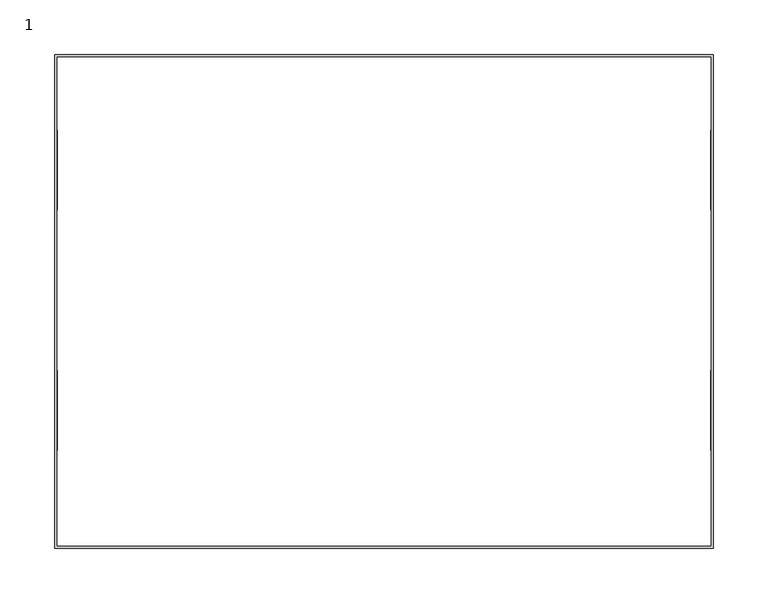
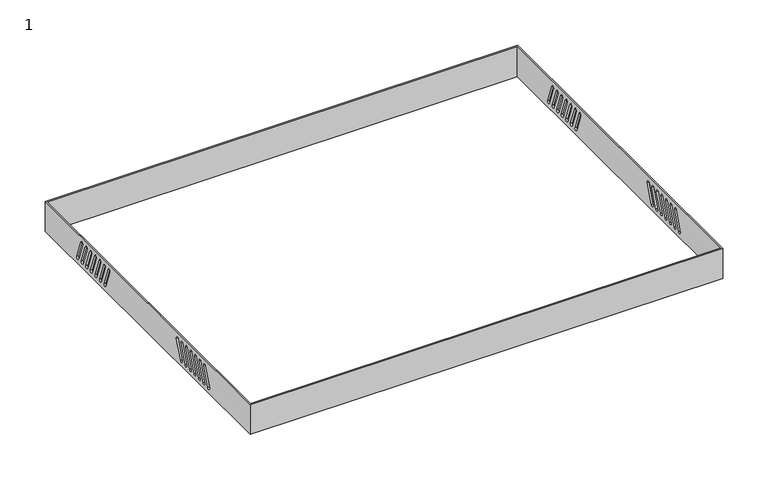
"""IFC4 building model written with IfcOpenShell, lengths in millimetres: proxy geometry, 1."""

from ifc_helpers import new_model, si_unit, frame, origin, place, context, project, spatial, polyline, circle_curve, source, transform, mapped, element, save
from ifc_brep_helpers import plane_surface, revolved_surface, advanced_brep


def proxy_1_935bc356(model_context):
    return source(origin(), model_context, "Body", "AdvancedBrep", [
        advanced_brep(
        [(298.0, -223.0, 0.0), (298.0, -223.0, 40.0), (298.0, 223.0, 40.0), (298.0, 223.0, 0.0), (298.0, -135.8, 8.2520321), (298.0, -132.0412295, 6.8839516), (298.0, -123.1487058, 31.3159597), (298.0, -126.9074763, 32.6840403), (298.0, -125.8, 8.2520321), (298.0, -122.0412295, 6.8839516), (298.0, -113.1487058, 31.3159597), (298.0, -116.9074763, 32.6840403), (298.0, -115.8, 8.2520321), (298.0, -112.0412295, 6.8839516), (298.0, -103.1487058, 31.3159597), (298.0, -106.9074763, 32.6840403), (298.0, -105.8, 8.2520321), (298.0, -102.0412295, 6.8839516), (298.0, -93.1487058, 31.3159597), (298.0, -96.9074763, 32.6840403), (298.0, -95.8, 8.2520321), (298.0, -92.0412295, 6.8839516), (298.0, -83.1487058, 31.3159597), (298.0, -86.9074763, 32.6840403), (298.0, -85.8, 8.2520321), (298.0, -82.0412295, 6.8839516), (298.0, -73.1487058, 31.3159597), (298.0, -76.9074763, 32.6840403), (298.0, -75.8, 8.2520321), (298.0, -72.0412295, 6.8839516), (298.0, -63.1487058, 31.3159597), (298.0, -66.9074763, 32.6840403), (298.0, 152.2412295, 6.8839516), (298.0, 156.0, 8.2520321), (298.0, 147.1074763, 32.6840403), (298.0, 143.3487058, 31.3159597), (298.0, 142.2412295, 6.8839516), (298.0, 146.0, 8.2520321), (298.0, 137.1074763, 32.6840403), (298.0, 133.3487058, 31.3159597), (298.0, 132.2412295, 6.8839516), (298.0, 136.0, 8.2520321), (298.0, 127.1074763, 32.6840403), (298.0, 123.3487058, 31.3159597), (298.0, 122.2412295, 6.8839516), (298.0, 126.0, 8.2520321), (298.0, 117.1074763, 32.6840403), (298.0, 113.3487058, 31.3159597), (298.0, 112.2412295, 6.8839516), (298.0, 116.0, 8.2520321), (298.0, 107.1074763, 32.6840403), (298.0, 103.3487058, 31.3159597), (298.0, 102.2412295, 6.8839516), (298.0, 106.0, 8.2520321), (298.0, 97.1074763, 32.6840403), (298.0, 93.3487058, 31.3159597), (298.0, 92.2412295, 6.8839516), (298.0, 96.0, 8.2520321), (298.0, 87.1074763, 32.6840403), (298.0, 83.3487058, 31.3159597), (300.0, -225.0, 0.0), (300.0, 225.0, 0.0), (300.0, 225.0, 40.0), (300.0, -225.0, 40.0), (300.0, -132.0412295, 6.8839516), (300.0, -135.8, 8.2520321), (300.0, -126.9074763, 32.6840403), (300.0, -123.1487058, 31.3159597), (300.0, -122.0412295, 6.8839516), (300.0, -125.8, 8.2520321), (300.0, -116.9074763, 32.6840403), (300.0, -113.1487058, 31.3159597), (300.0, -112.0412295, 6.8839516), (300.0, -115.8, 8.2520321), (300.0, -106.9074763, 32.6840403), (300.0, -103.1487058, 31.3159597), (300.0, -102.0412295, 6.8839516), (300.0, -105.8, 8.2520321), (300.0, -96.9074763, 32.6840403), (300.0, -93.1487058, 31.3159597), (300.0, -92.0412295, 6.8839516), (300.0, -95.8, 8.2520321), (300.0, -86.9074763, 32.6840403), (300.0, -83.1487058, 31.3159597), (300.0, -82.0412295, 6.8839516), (300.0, -85.8, 8.2520321), (300.0, -76.9074763, 32.6840403), (300.0, -73.1487058, 31.3159597), (300.0, -72.0412295, 6.8839516), (300.0, -75.8, 8.2520321), (300.0, -66.9074763, 32.6840403), (300.0, -63.1487058, 31.3159597), (300.0, 156.0, 8.2520321), (300.0, 152.2412295, 6.8839516), (300.0, 143.3487058, 31.3159597), (300.0, 147.1074763, 32.6840403), (300.0, 146.0, 8.2520321), (300.0, 142.2412295, 6.8839516), (300.0, 133.3487058, 31.3159597), (300.0, 137.1074763, 32.6840403), (300.0, 136.0, 8.2520321), (300.0, 132.2412295, 6.8839516), (300.0, 123.3487058, 31.3159597), (300.0, 127.1074763, 32.6840403), (300.0, 126.0, 8.2520321), (300.0, 122.2412295, 6.8839516), (300.0, 113.3487058, 31.3159597), (300.0, 117.1074763, 32.6840403), (300.0, 116.0, 8.2520321), (300.0, 112.2412295, 6.8839516), (300.0, 103.3487058, 31.3159597), (300.0, 107.1074763, 32.6840403), (300.0, 106.0, 8.2520321), (300.0, 102.2412295, 6.8839516), (300.0, 93.3487058, 31.3159597), (300.0, 97.1074763, 32.6840403), (300.0, 96.0, 8.2520321), (300.0, 92.2412295, 6.8839516), (300.0, 83.3487058, 31.3159597), (300.0, 87.1074763, 32.6840403), (-300.0, -225.0, 0.0), (-300.0, 225.0, 0.0), (-298.0, 223.0, 0.0), (-298.0, -223.0, 0.0), (-300.0, -225.0, 40.0), (-300.0, 225.0, 40.0), (-298.0, -223.0, 40.0), (-298.0, 223.0, 40.0), (-298.0, 96.0, 8.2520321), (-298.0, 92.2412295, 6.8839516), (-298.0, 83.3487058, 31.3159597), (-298.0, 87.1074763, 32.6840403), (-298.0, 106.0, 8.2520321), (-298.0, 102.2412295, 6.8839516), (-298.0, 93.3487058, 31.3159597), (-298.0, 97.1074763, 32.6840403), (-298.0, 116.0, 8.2520321), (-298.0, 112.2412295, 6.8839516), (-298.0, 103.3487058, 31.3159597), (-298.0, 107.1074763, 32.6840403), (-298.0, 126.0, 8.2520321), (-298.0, 122.2412295, 6.8839516), (-298.0, 113.3487058, 31.3159597), (-298.0, 117.1074763, 32.6840403), (-298.0, 136.0, 8.2520321), (-298.0, 132.2412295, 6.8839516), (-298.0, 123.3487058, 31.3159597), (-298.0, 127.1074763, 32.6840403), (-298.0, 146.0, 8.2520321), (-298.0, 142.2412295, 6.8839516), (-298.0, 133.3487058, 31.3159597), (-298.0, 137.1074763, 32.6840403), (-298.0, 156.0, 8.2520321), (-298.0, 152.2412295, 6.8839516), (-298.0, 143.3487058, 31.3159597), (-298.0, 147.1074763, 32.6840403), (-298.0, -66.9074763, 32.6840403), (-298.0, -63.1487058, 31.3159597), (-298.0, -72.0412295, 6.8839516), (-298.0, -75.8, 8.2520321), (-298.0, -76.9074763, 32.6840403), (-298.0, -73.1487058, 31.3159597), (-298.0, -82.0412295, 6.8839516), (-298.0, -85.8, 8.2520321), (-298.0, -86.9074763, 32.6840403), (-298.0, -83.1487058, 31.3159597), (-298.0, -92.0412295, 6.8839516), (-298.0, -95.8, 8.2520321), (-298.0, -96.9074763, 32.6840403), (-298.0, -93.1487058, 31.3159597), (-298.0, -102.0412295, 6.8839516), (-298.0, -105.8, 8.2520321), (-298.0, -106.9074763, 32.6840403), (-298.0, -103.1487058, 31.3159597), (-298.0, -112.0412295, 6.8839516), (-298.0, -115.8, 8.2520321), (-298.0, -116.9074763, 32.6840403), (-298.0, -113.1487058, 31.3159597), (-298.0, -122.0412295, 6.8839516), (-298.0, -125.8, 8.2520321), (-298.0, -126.9074763, 32.6840403), (-298.0, -123.1487058, 31.3159597), (-298.0, -132.0412295, 6.8839516), (-298.0, -135.8, 8.2520321), (-300.0, 92.2412295, 6.8839516), (-300.0, 96.0, 8.2520321), (-300.0, 87.1074763, 32.6840403), (-300.0, 83.3487058, 31.3159597), (-300.0, 102.2412295, 6.8839516), (-300.0, 106.0, 8.2520321), (-300.0, 97.1074763, 32.6840403), (-300.0, 93.3487058, 31.3159597), (-300.0, 112.2412295, 6.8839516), (-300.0, 116.0, 8.2520321), (-300.0, 107.1074763, 32.6840403), (-300.0, 103.3487058, 31.3159597), (-300.0, 122.2412295, 6.8839516), (-300.0, 126.0, 8.2520321), (-300.0, 117.1074763, 32.6840403), (-300.0, 113.3487058, 31.3159597), (-300.0, 132.2412295, 6.8839516), (-300.0, 136.0, 8.2520321), (-300.0, 127.1074763, 32.6840403), (-300.0, 123.3487058, 31.3159597), (-300.0, 142.2412295, 6.8839516), (-300.0, 146.0, 8.2520321), (-300.0, 137.1074763, 32.6840403), (-300.0, 133.3487058, 31.3159597), (-300.0, 152.2412295, 6.8839516), (-300.0, 156.0, 8.2520321), (-300.0, 147.1074763, 32.6840403), (-300.0, 143.3487058, 31.3159597), (-300.0, -63.1487058, 31.3159597), (-300.0, -66.9074763, 32.6840403), (-300.0, -75.8, 8.2520321), (-300.0, -72.0412295, 6.8839516), (-300.0, -73.1487058, 31.3159597), (-300.0, -76.9074763, 32.6840403), (-300.0, -85.8, 8.2520321), (-300.0, -82.0412295, 6.8839516), (-300.0, -83.1487058, 31.3159597), (-300.0, -86.9074763, 32.6840403), (-300.0, -95.8, 8.2520321), (-300.0, -92.0412295, 6.8839516), (-300.0, -93.1487058, 31.3159597), (-300.0, -96.9074763, 32.6840403), (-300.0, -105.8, 8.2520321), (-300.0, -102.0412295, 6.8839516), (-300.0, -103.1487058, 31.3159597), (-300.0, -106.9074763, 32.6840403), (-300.0, -115.8, 8.2520321), (-300.0, -112.0412295, 6.8839516), (-300.0, -113.1487058, 31.3159597), (-300.0, -116.9074763, 32.6840403), (-300.0, -125.8, 8.2520321), (-300.0, -122.0412295, 6.8839516), (-300.0, -123.1487058, 31.3159597), (-300.0, -126.9074763, 32.6840403), (-300.0, -135.8, 8.2520321), (-300.0, -132.0412295, 6.8839516)],
        [
            (0, 1),
            (1, 2),
            (2, 3),
            (3, 0),
            (4, 5, circle_curve(frame((298.0, -133.9206148, 7.5679919), z_axis=(1.0, 0.0, 0.0), x_axis=(0.0, -1.0, 0.0)), 2.0)),
            (5, 6),
            (6, 7, circle_curve(frame((298.0, -125.028091, 32.0), z_axis=(1.0, 0.0, 0.0), x_axis=(0.0, -1.0, 0.0)), 2.0)),
            (7, 4),
            (8, 9, circle_curve(frame((298.0, -123.9206148, 7.5679919), z_axis=(1.0, 0.0, 0.0), x_axis=(0.0, -1.0, 0.0)), 2.0)),
            (9, 10),
            (10, 11, circle_curve(frame((298.0, -115.028091, 32.0), z_axis=(1.0, 0.0, 0.0), x_axis=(0.0, -1.0, 0.0)), 2.0)),
            (11, 8),
            (12, 13, circle_curve(frame((298.0, -113.9206148, 7.5679919), z_axis=(1.0, 0.0, 0.0), x_axis=(0.0, -1.0, 0.0)), 2.0)),
            (13, 14),
            (14, 15, circle_curve(frame((298.0, -105.028091, 32.0), z_axis=(1.0, 0.0, 0.0), x_axis=(0.0, -1.0, 0.0)), 2.0)),
            (15, 12),
            (16, 17, circle_curve(frame((298.0, -103.9206148, 7.5679919), z_axis=(1.0, 0.0, 0.0), x_axis=(0.0, -1.0, 0.0)), 2.0)),
            (17, 18),
            (18, 19, circle_curve(frame((298.0, -95.028091, 32.0), z_axis=(1.0, 0.0, 0.0), x_axis=(0.0, -1.0, 0.0)), 2.0)),
            (19, 16),
            (20, 21, circle_curve(frame((298.0, -93.9206148, 7.5679919), z_axis=(1.0, 0.0, 0.0), x_axis=(0.0, -1.0, 0.0)), 2.0)),
            (21, 22),
            (22, 23, circle_curve(frame((298.0, -85.028091, 32.0), z_axis=(1.0, 0.0, 0.0), x_axis=(0.0, -1.0, 0.0)), 2.0)),
            (23, 20),
            (24, 25, circle_curve(frame((298.0, -83.9206148, 7.5679919), z_axis=(1.0, 0.0, 0.0), x_axis=(0.0, -1.0, 0.0)), 2.0)),
            (25, 26),
            (26, 27, circle_curve(frame((298.0, -75.028091, 32.0), z_axis=(1.0, 0.0, 0.0), x_axis=(0.0, -1.0, 0.0)), 2.0)),
            (27, 24),
            (28, 29, circle_curve(frame((298.0, -73.9206148, 7.5679919), z_axis=(1.0, 0.0, 0.0), x_axis=(0.0, -1.0, 0.0)), 2.0)),
            (29, 30),
            (30, 31, circle_curve(frame((298.0, -65.028091, 32.0), z_axis=(1.0, 0.0, 0.0), x_axis=(0.0, -1.0, 0.0)), 2.0)),
            (31, 28),
            (32, 33, circle_curve(frame((298.0, 154.1206148, 7.5679919), z_axis=(1.0, 0.0, 0.0), x_axis=(0.0, 1.0, 0.0)), 2.0)),
            (33, 34),
            (34, 35, circle_curve(frame((298.0, 145.228091, 32.0), z_axis=(1.0, 0.0, 0.0), x_axis=(0.0, 1.0, 0.0)), 2.0)),
            (35, 32),
            (36, 37, circle_curve(frame((298.0, 144.1206148, 7.5679919), z_axis=(1.0, 0.0, 0.0), x_axis=(0.0, 1.0, 0.0)), 2.0)),
            (37, 38),
            (38, 39, circle_curve(frame((298.0, 135.228091, 32.0), z_axis=(1.0, 0.0, 0.0), x_axis=(0.0, 1.0, 0.0)), 2.0)),
            (39, 36),
            (40, 41, circle_curve(frame((298.0, 134.1206148, 7.5679919), z_axis=(1.0, 0.0, 0.0), x_axis=(0.0, 1.0, 0.0)), 2.0)),
            (41, 42),
            (42, 43, circle_curve(frame((298.0, 125.228091, 32.0), z_axis=(1.0, 0.0, 0.0), x_axis=(0.0, 1.0, 0.0)), 2.0)),
            (43, 40),
            (44, 45, circle_curve(frame((298.0, 124.1206148, 7.5679919), z_axis=(1.0, 0.0, 0.0), x_axis=(0.0, 1.0, 0.0)), 2.0)),
            (45, 46),
            (46, 47, circle_curve(frame((298.0, 115.228091, 32.0), z_axis=(1.0, 0.0, 0.0), x_axis=(0.0, 1.0, 0.0)), 2.0)),
            (47, 44),
            (48, 49, circle_curve(frame((298.0, 114.1206148, 7.5679919), z_axis=(1.0, 0.0, 0.0), x_axis=(0.0, 1.0, 0.0)), 2.0)),
            (49, 50),
            (50, 51, circle_curve(frame((298.0, 105.228091, 32.0), z_axis=(1.0, 0.0, 0.0), x_axis=(0.0, 1.0, 0.0)), 2.0)),
            (51, 48),
            (52, 53, circle_curve(frame((298.0, 104.1206148, 7.5679919), z_axis=(1.0, 0.0, 0.0), x_axis=(0.0, 1.0, 0.0)), 2.0)),
            (53, 54),
            (54, 55, circle_curve(frame((298.0, 95.228091, 32.0), z_axis=(1.0, 0.0, 0.0), x_axis=(0.0, 1.0, 0.0)), 2.0)),
            (55, 52),
            (56, 57, circle_curve(frame((298.0, 94.1206148, 7.5679919), z_axis=(1.0, 0.0, 0.0), x_axis=(0.0, 1.0, 0.0)), 2.0)),
            (57, 58),
            (58, 59, circle_curve(frame((298.0, 85.228091, 32.0), z_axis=(1.0, 0.0, 0.0), x_axis=(0.0, 1.0, 0.0)), 2.0)),
            (59, 56),
            (60, 61),
            (61, 62),
            (62, 63),
            (63, 60),
            (64, 65, circle_curve(frame((300.0, -133.9206148, 7.5679919), z_axis=(-1.0, 0.0, 0.0), x_axis=(0.0, -1.0, 0.0)), 2.0)),
            (65, 66),
            (66, 67, circle_curve(frame((300.0, -125.028091, 32.0), z_axis=(-1.0, 0.0, 0.0), x_axis=(0.0, -1.0, 0.0)), 2.0)),
            (67, 64),
            (68, 69, circle_curve(frame((300.0, -123.9206148, 7.5679919), z_axis=(-1.0, 0.0, 0.0), x_axis=(0.0, -1.0, 0.0)), 2.0)),
            (69, 70),
            (70, 71, circle_curve(frame((300.0, -115.028091, 32.0), z_axis=(-1.0, 0.0, 0.0), x_axis=(0.0, -1.0, 0.0)), 2.0)),
            (71, 68),
            (72, 73, circle_curve(frame((300.0, -113.9206148, 7.5679919), z_axis=(-1.0, 0.0, 0.0), x_axis=(0.0, -1.0, 0.0)), 2.0)),
            (73, 74),
            (74, 75, circle_curve(frame((300.0, -105.028091, 32.0), z_axis=(-1.0, 0.0, 0.0), x_axis=(0.0, -1.0, 0.0)), 2.0)),
            (75, 72),
            (76, 77, circle_curve(frame((300.0, -103.9206148, 7.5679919), z_axis=(-1.0, 0.0, 0.0), x_axis=(0.0, -1.0, 0.0)), 2.0)),
            (77, 78),
            (78, 79, circle_curve(frame((300.0, -95.028091, 32.0), z_axis=(-1.0, 0.0, 0.0), x_axis=(0.0, -1.0, 0.0)), 2.0)),
            (79, 76),
            (80, 81, circle_curve(frame((300.0, -93.9206148, 7.5679919), z_axis=(-1.0, 0.0, 0.0), x_axis=(0.0, -1.0, 0.0)), 2.0)),
            (81, 82),
            (82, 83, circle_curve(frame((300.0, -85.028091, 32.0), z_axis=(-1.0, 0.0, 0.0), x_axis=(0.0, -1.0, 0.0)), 2.0)),
            (83, 80),
            (84, 85, circle_curve(frame((300.0, -83.9206148, 7.5679919), z_axis=(-1.0, 0.0, 0.0), x_axis=(0.0, -1.0, 0.0)), 2.0)),
            (85, 86),
            (86, 87, circle_curve(frame((300.0, -75.028091, 32.0), z_axis=(-1.0, 0.0, 0.0), x_axis=(0.0, -1.0, 0.0)), 2.0)),
            (87, 84),
            (88, 89, circle_curve(frame((300.0, -73.9206148, 7.5679919), z_axis=(-1.0, 0.0, 0.0), x_axis=(0.0, -1.0, 0.0)), 2.0)),
            (89, 90),
            (90, 91, circle_curve(frame((300.0, -65.028091, 32.0), z_axis=(-1.0, 0.0, 0.0), x_axis=(0.0, -1.0, 0.0)), 2.0)),
            (91, 88),
            (92, 93, circle_curve(frame((300.0, 154.1206148, 7.5679919), z_axis=(-1.0, 0.0, 0.0), x_axis=(0.0, 1.0, 0.0)), 2.0)),
            (93, 94),
            (94, 95, circle_curve(frame((300.0, 145.228091, 32.0), z_axis=(-1.0, 0.0, 0.0), x_axis=(0.0, 1.0, 0.0)), 2.0)),
            (95, 92),
            (96, 97, circle_curve(frame((300.0, 144.1206148, 7.5679919), z_axis=(-1.0, 0.0, 0.0), x_axis=(0.0, 1.0, 0.0)), 2.0)),
            (97, 98),
            (98, 99, circle_curve(frame((300.0, 135.228091, 32.0), z_axis=(-1.0, 0.0, 0.0), x_axis=(0.0, 1.0, 0.0)), 2.0)),
            (99, 96),
            (100, 101, circle_curve(frame((300.0, 134.1206148, 7.5679919), z_axis=(-1.0, 0.0, 0.0), x_axis=(0.0, 1.0, 0.0)), 2.0)),
            (101, 102),
            (102, 103, circle_curve(frame((300.0, 125.228091, 32.0), z_axis=(-1.0, 0.0, 0.0), x_axis=(0.0, 1.0, 0.0)), 2.0)),
            (103, 100),
            (104, 105, circle_curve(frame((300.0, 124.1206148, 7.5679919), z_axis=(-1.0, 0.0, 0.0), x_axis=(0.0, 1.0, 0.0)), 2.0)),
            (105, 106),
            (106, 107, circle_curve(frame((300.0, 115.228091, 32.0), z_axis=(-1.0, 0.0, 0.0), x_axis=(0.0, 1.0, 0.0)), 2.0)),
            (107, 104),
            (108, 109, circle_curve(frame((300.0, 114.1206148, 7.5679919), z_axis=(-1.0, 0.0, 0.0), x_axis=(0.0, 1.0, 0.0)), 2.0)),
            (109, 110),
            (110, 111, circle_curve(frame((300.0, 105.228091, 32.0), z_axis=(-1.0, 0.0, 0.0), x_axis=(0.0, 1.0, 0.0)), 2.0)),
            (111, 108),
            (112, 113, circle_curve(frame((300.0, 104.1206148, 7.5679919), z_axis=(-1.0, 0.0, 0.0), x_axis=(0.0, 1.0, 0.0)), 2.0)),
            (113, 114),
            (114, 115, circle_curve(frame((300.0, 95.228091, 32.0), z_axis=(-1.0, 0.0, 0.0), x_axis=(0.0, 1.0, 0.0)), 2.0)),
            (115, 112),
            (116, 117, circle_curve(frame((300.0, 94.1206148, 7.5679919), z_axis=(-1.0, 0.0, 0.0), x_axis=(0.0, 1.0, 0.0)), 2.0)),
            (117, 118),
            (118, 119, circle_curve(frame((300.0, 85.228091, 32.0), z_axis=(-1.0, 0.0, 0.0), x_axis=(0.0, 1.0, 0.0)), 2.0)),
            (119, 116),
            (60, 120),
            (120, 121),
            (121, 61),
            (3, 122),
            (122, 123),
            (123, 0),
            (63, 124),
            (124, 120),
            (62, 125),
            (125, 124),
            (126, 127),
            (127, 2),
            (1, 126),
            (121, 125),
            (64, 5),
            (4, 65),
            (67, 6),
            (66, 7),
            (68, 9),
            (8, 69),
            (71, 10),
            (70, 11),
            (72, 13),
            (12, 73),
            (75, 14),
            (74, 15),
            (76, 17),
            (16, 77),
            (79, 18),
            (78, 19),
            (80, 21),
            (20, 81),
            (83, 22),
            (82, 23),
            (84, 25),
            (24, 85),
            (87, 26),
            (86, 27),
            (88, 29),
            (28, 89),
            (91, 30),
            (90, 31),
            (92, 33),
            (32, 93),
            (35, 94),
            (34, 95),
            (96, 37),
            (36, 97),
            (39, 98),
            (38, 99),
            (100, 41),
            (40, 101),
            (43, 102),
            (42, 103),
            (104, 45),
            (44, 105),
            (47, 106),
            (46, 107),
            (108, 49),
            (48, 109),
            (51, 110),
            (50, 111),
            (112, 53),
            (52, 113),
            (55, 114),
            (54, 115),
            (116, 57),
            (56, 117),
            (59, 118),
            (58, 119),
            (123, 126),
            (122, 127),
            (128, 129, circle_curve(frame((-298.0, 94.1206148, 7.5679919), z_axis=(-1.0, 0.0, 0.0), x_axis=(0.0, 1.0, 0.0)), 2.0)),
            (129, 130),
            (130, 131, circle_curve(frame((-298.0, 85.228091, 32.0), z_axis=(-1.0, 0.0, 0.0), x_axis=(0.0, 1.0, 0.0)), 2.0)),
            (131, 128),
            (132, 133, circle_curve(frame((-298.0, 104.1206148, 7.5679919), z_axis=(-1.0, 0.0, 0.0), x_axis=(0.0, 1.0, 0.0)), 2.0)),
            (133, 134),
            (134, 135, circle_curve(frame((-298.0, 95.228091, 32.0), z_axis=(-1.0, 0.0, 0.0), x_axis=(0.0, 1.0, 0.0)), 2.0)),
            (135, 132),
            (136, 137, circle_curve(frame((-298.0, 114.1206148, 7.5679919), z_axis=(-1.0, 0.0, 0.0), x_axis=(0.0, 1.0, 0.0)), 2.0)),
            (137, 138),
            (138, 139, circle_curve(frame((-298.0, 105.228091, 32.0), z_axis=(-1.0, 0.0, 0.0), x_axis=(0.0, 1.0, 0.0)), 2.0)),
            (139, 136),
            (140, 141, circle_curve(frame((-298.0, 124.1206148, 7.5679919), z_axis=(-1.0, 0.0, 0.0), x_axis=(0.0, 1.0, 0.0)), 2.0)),
            (141, 142),
            (142, 143, circle_curve(frame((-298.0, 115.228091, 32.0), z_axis=(-1.0, 0.0, 0.0), x_axis=(0.0, 1.0, 0.0)), 2.0)),
            (143, 140),
            (144, 145, circle_curve(frame((-298.0, 134.1206148, 7.5679919), z_axis=(-1.0, 0.0, 0.0), x_axis=(0.0, 1.0, 0.0)), 2.0)),
            (145, 146),
            (146, 147, circle_curve(frame((-298.0, 125.228091, 32.0), z_axis=(-1.0, 0.0, 0.0), x_axis=(0.0, 1.0, 0.0)), 2.0)),
            (147, 144),
            (148, 149, circle_curve(frame((-298.0, 144.1206148, 7.5679919), z_axis=(-1.0, 0.0, 0.0), x_axis=(0.0, 1.0, 0.0)), 2.0)),
            (149, 150),
            (150, 151, circle_curve(frame((-298.0, 135.228091, 32.0), z_axis=(-1.0, 0.0, 0.0), x_axis=(0.0, 1.0, 0.0)), 2.0)),
            (151, 148),
            (152, 153, circle_curve(frame((-298.0, 154.1206148, 7.5679919), z_axis=(-1.0, 0.0, 0.0), x_axis=(0.0, 1.0, 0.0)), 2.0)),
            (153, 154),
            (154, 155, circle_curve(frame((-298.0, 145.228091, 32.0), z_axis=(-1.0, 0.0, 0.0), x_axis=(0.0, 1.0, 0.0)), 2.0)),
            (155, 152),
            (156, 157, circle_curve(frame((-298.0, -65.028091, 32.0), z_axis=(-1.0, 0.0, 0.0), x_axis=(0.0, 1.0, 0.0)), 2.0)),
            (157, 158),
            (158, 159, circle_curve(frame((-298.0, -73.9206148, 7.5679919), z_axis=(-1.0, 0.0, 0.0), x_axis=(0.0, 1.0, 0.0)), 2.0)),
            (159, 156),
            (160, 161, circle_curve(frame((-298.0, -75.028091, 32.0), z_axis=(-1.0, 0.0, 0.0), x_axis=(0.0, 1.0, 0.0)), 2.0)),
            (161, 162),
            (162, 163, circle_curve(frame((-298.0, -83.9206148, 7.5679919), z_axis=(-1.0, 0.0, 0.0), x_axis=(0.0, 1.0, 0.0)), 2.0)),
            (163, 160),
            (164, 165, circle_curve(frame((-298.0, -85.028091, 32.0), z_axis=(-1.0, 0.0, 0.0), x_axis=(0.0, 1.0, 0.0)), 2.0)),
            (165, 166),
            (166, 167, circle_curve(frame((-298.0, -93.9206148, 7.5679919), z_axis=(-1.0, 0.0, 0.0), x_axis=(0.0, 1.0, 0.0)), 2.0)),
            (167, 164),
            (168, 169, circle_curve(frame((-298.0, -95.028091, 32.0), z_axis=(-1.0, 0.0, 0.0), x_axis=(0.0, 1.0, 0.0)), 2.0)),
            (169, 170),
            (170, 171, circle_curve(frame((-298.0, -103.9206148, 7.5679919), z_axis=(-1.0, 0.0, 0.0), x_axis=(0.0, 1.0, 0.0)), 2.0)),
            (171, 168),
            (172, 173, circle_curve(frame((-298.0, -105.028091, 32.0), z_axis=(-1.0, 0.0, 0.0), x_axis=(0.0, 1.0, 0.0)), 2.0)),
            (173, 174),
            (174, 175, circle_curve(frame((-298.0, -113.9206148, 7.5679919), z_axis=(-1.0, 0.0, 0.0), x_axis=(0.0, 1.0, 0.0)), 2.0)),
            (175, 172),
            (176, 177, circle_curve(frame((-298.0, -115.028091, 32.0), z_axis=(-1.0, 0.0, 0.0), x_axis=(0.0, 1.0, 0.0)), 2.0)),
            (177, 178),
            (178, 179, circle_curve(frame((-298.0, -123.9206148, 7.5679919), z_axis=(-1.0, 0.0, 0.0), x_axis=(0.0, 1.0, 0.0)), 2.0)),
            (179, 176),
            (180, 181, circle_curve(frame((-298.0, -125.028091, 32.0), z_axis=(-1.0, 0.0, 0.0), x_axis=(0.0, 1.0, 0.0)), 2.0)),
            (181, 182),
            (182, 183, circle_curve(frame((-298.0, -133.9206148, 7.5679919), z_axis=(-1.0, 0.0, 0.0), x_axis=(0.0, 1.0, 0.0)), 2.0)),
            (183, 180),
            (184, 185, circle_curve(frame((-300.0, 94.1206148, 7.5679919), z_axis=(1.0, 0.0, 0.0), x_axis=(0.0, 1.0, 0.0)), 2.0)),
            (185, 186),
            (186, 187, circle_curve(frame((-300.0, 85.228091, 32.0), z_axis=(1.0, 0.0, 0.0), x_axis=(0.0, 1.0, 0.0)), 2.0)),
            (187, 184),
            (188, 189, circle_curve(frame((-300.0, 104.1206148, 7.5679919), z_axis=(1.0, 0.0, 0.0), x_axis=(0.0, 1.0, 0.0)), 2.0)),
            (189, 190),
            (190, 191, circle_curve(frame((-300.0, 95.228091, 32.0), z_axis=(1.0, 0.0, 0.0), x_axis=(0.0, 1.0, 0.0)), 2.0)),
            (191, 188),
            (192, 193, circle_curve(frame((-300.0, 114.1206148, 7.5679919), z_axis=(1.0, 0.0, 0.0), x_axis=(0.0, 1.0, 0.0)), 2.0)),
            (193, 194),
            (194, 195, circle_curve(frame((-300.0, 105.228091, 32.0), z_axis=(1.0, 0.0, 0.0), x_axis=(0.0, 1.0, 0.0)), 2.0)),
            (195, 192),
            (196, 197, circle_curve(frame((-300.0, 124.1206148, 7.5679919), z_axis=(1.0, 0.0, 0.0), x_axis=(0.0, 1.0, 0.0)), 2.0)),
            (197, 198),
            (198, 199, circle_curve(frame((-300.0, 115.228091, 32.0), z_axis=(1.0, 0.0, 0.0), x_axis=(0.0, 1.0, 0.0)), 2.0)),
            (199, 196),
            (200, 201, circle_curve(frame((-300.0, 134.1206148, 7.5679919), z_axis=(1.0, 0.0, 0.0), x_axis=(0.0, 1.0, 0.0)), 2.0)),
            (201, 202),
            (202, 203, circle_curve(frame((-300.0, 125.228091, 32.0), z_axis=(1.0, 0.0, 0.0), x_axis=(0.0, 1.0, 0.0)), 2.0)),
            (203, 200),
            (204, 205, circle_curve(frame((-300.0, 144.1206148, 7.5679919), z_axis=(1.0, 0.0, 0.0), x_axis=(0.0, 1.0, 0.0)), 2.0)),
            (205, 206),
            (206, 207, circle_curve(frame((-300.0, 135.228091, 32.0), z_axis=(1.0, 0.0, 0.0), x_axis=(0.0, 1.0, 0.0)), 2.0)),
            (207, 204),
            (208, 209, circle_curve(frame((-300.0, 154.1206148, 7.5679919), z_axis=(1.0, 0.0, 0.0), x_axis=(0.0, 1.0, 0.0)), 2.0)),
            (209, 210),
            (210, 211, circle_curve(frame((-300.0, 145.228091, 32.0), z_axis=(1.0, 0.0, 0.0), x_axis=(0.0, 1.0, 0.0)), 2.0)),
            (211, 208),
            (212, 213, circle_curve(frame((-300.0, -65.028091, 32.0), z_axis=(1.0, 0.0, 0.0), x_axis=(0.0, 1.0, 0.0)), 2.0)),
            (213, 214),
            (214, 215, circle_curve(frame((-300.0, -73.9206148, 7.5679919), z_axis=(1.0, 0.0, 0.0), x_axis=(0.0, 1.0, 0.0)), 2.0)),
            (215, 212),
            (216, 217, circle_curve(frame((-300.0, -75.028091, 32.0), z_axis=(1.0, 0.0, 0.0), x_axis=(0.0, 1.0, 0.0)), 2.0)),
            (217, 218),
            (218, 219, circle_curve(frame((-300.0, -83.9206148, 7.5679919), z_axis=(1.0, 0.0, 0.0), x_axis=(0.0, 1.0, 0.0)), 2.0)),
            (219, 216),
            (220, 221, circle_curve(frame((-300.0, -85.028091, 32.0), z_axis=(1.0, 0.0, 0.0), x_axis=(0.0, 1.0, 0.0)), 2.0)),
            (221, 222),
            (222, 223, circle_curve(frame((-300.0, -93.9206148, 7.5679919), z_axis=(1.0, 0.0, 0.0), x_axis=(0.0, 1.0, 0.0)), 2.0)),
            (223, 220),
            (224, 225, circle_curve(frame((-300.0, -95.028091, 32.0), z_axis=(1.0, 0.0, 0.0), x_axis=(0.0, 1.0, 0.0)), 2.0)),
            (225, 226),
            (226, 227, circle_curve(frame((-300.0, -103.9206148, 7.5679919), z_axis=(1.0, 0.0, 0.0), x_axis=(0.0, 1.0, 0.0)), 2.0)),
            (227, 224),
            (228, 229, circle_curve(frame((-300.0, -105.028091, 32.0), z_axis=(1.0, 0.0, 0.0), x_axis=(0.0, 1.0, 0.0)), 2.0)),
            (229, 230),
            (230, 231, circle_curve(frame((-300.0, -113.9206148, 7.5679919), z_axis=(1.0, 0.0, 0.0), x_axis=(0.0, 1.0, 0.0)), 2.0)),
            (231, 228),
            (232, 233, circle_curve(frame((-300.0, -115.028091, 32.0), z_axis=(1.0, 0.0, 0.0), x_axis=(0.0, 1.0, 0.0)), 2.0)),
            (233, 234),
            (234, 235, circle_curve(frame((-300.0, -123.9206148, 7.5679919), z_axis=(1.0, 0.0, 0.0), x_axis=(0.0, 1.0, 0.0)), 2.0)),
            (235, 232),
            (236, 237, circle_curve(frame((-300.0, -125.028091, 32.0), z_axis=(1.0, 0.0, 0.0), x_axis=(0.0, 1.0, 0.0)), 2.0)),
            (237, 238),
            (238, 239, circle_curve(frame((-300.0, -133.9206148, 7.5679919), z_axis=(1.0, 0.0, 0.0), x_axis=(0.0, 1.0, 0.0)), 2.0)),
            (239, 236),
            (128, 185),
            (184, 129),
            (131, 186),
            (130, 187),
            (132, 189),
            (188, 133),
            (135, 190),
            (134, 191),
            (136, 193),
            (192, 137),
            (139, 194),
            (138, 195),
            (140, 197),
            (196, 141),
            (143, 198),
            (142, 199),
            (144, 201),
            (200, 145),
            (147, 202),
            (146, 203),
            (148, 205),
            (204, 149),
            (151, 206),
            (150, 207),
            (152, 209),
            (208, 153),
            (155, 210),
            (154, 211),
            (156, 213),
            (212, 157),
            (159, 214),
            (158, 215),
            (160, 217),
            (216, 161),
            (163, 218),
            (162, 219),
            (164, 221),
            (220, 165),
            (167, 222),
            (166, 223),
            (168, 225),
            (224, 169),
            (171, 226),
            (170, 227),
            (172, 229),
            (228, 173),
            (175, 230),
            (174, 231),
            (176, 233),
            (232, 177),
            (179, 234),
            (178, 235),
            (180, 237),
            (236, 181),
            (183, 238),
            (182, 239),
        ],
        [
            plane_surface(frame((298.0, 225.0, 0.0), z_axis=(-1.0, 0.0, 0.0), x_axis=(0.0, 0.0, -1.0))),
            plane_surface(frame((300.0, 225.0, 0.0), z_axis=(1.0, 0.0, 0.0), x_axis=(0.0, 0.0, 1.0))),
            plane_surface(frame((300.0, -225.0, 0.0), z_axis=(0.0, 0.0, -1.0), x_axis=(-1.0, 0.0, 0.0))),
            plane_surface(frame((300.0, -225.0, 40.0), z_axis=(0.0, -1.0, 0.0), x_axis=(-1.0, 0.0, 0.0))),
            plane_surface(frame((300.0, 225.0, 40.0), z_axis=(0.0, 0.0, 1.0), x_axis=(-1.0, 0.0, 0.0))),
            plane_surface(frame((300.0, 225.0, 0.0), z_axis=(0.0, 1.0, 0.0), x_axis=(-1.0, 0.0, 0.0))),
            revolved_surface(polyline([(300.0, -135.9206148, 7.5679919), (298.0, -135.9206148, 7.5679919)]), (298.0, -133.9206148, 7.5679919), (1.0, 0.0, 0.0)),
            plane_surface(frame((300.0, -132.0412295, 6.8839516), z_axis=(0.0, -0.9396926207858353, 0.34202014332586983), x_axis=(-1.0, 0.0, 0.0))),
            revolved_surface(polyline([(300.0, -127.028091, 32.0), (298.0, -127.028091, 32.0)]), (298.0, -125.028091, 32.0), (1.0, 0.0, 0.0)),
            plane_surface(frame((300.0, -126.9074763, 32.6840403), z_axis=(0.0, 0.9396926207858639, -0.34202014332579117), x_axis=(-1.0, 0.0, 0.0))),
            revolved_surface(polyline([(300.0, -125.9206148, 7.5679919), (298.0, -125.9206148, 7.5679919)]), (300.0, -123.9206148, 7.5679919), (1.0, 0.0, 0.0)),
            plane_surface(frame((300.0, -122.0412295, 6.8839516), z_axis=(0.0, -0.9396926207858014, 0.34202014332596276), x_axis=(-1.0, 0.0, 0.0))),
            revolved_surface(polyline([(300.0, -117.028091, 32.0), (298.0, -117.028091, 32.0)]), (300.0, -115.028091, 32.0), (1.0, 0.0, 0.0)),
            plane_surface(frame((300.0, -116.9074763, 32.6840403), z_axis=(0.0, 0.9396926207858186, -0.34202014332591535), x_axis=(-1.0, 0.0, 0.0))),
            revolved_surface(polyline([(300.0, -115.9206148, 7.5679919), (298.0, -115.9206148, 7.5679919)]), (300.0, -113.9206148, 7.5679919), (1.0, 0.0, 0.0)),
            plane_surface(frame((300.0, -112.0412295, 6.8839516), z_axis=(0.0, -0.9396926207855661, 0.3420201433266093), x_axis=(-1.0, 0.0, 0.0))),
            revolved_surface(polyline([(300.0, -107.028091, 32.0), (298.0, -107.028091, 32.0)]), (300.0, -105.028091, 32.0), (1.0, 0.0, 0.0)),
            plane_surface(frame((300.0, -106.9074763, 32.6840403), z_axis=(0.0, 0.9396926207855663, -0.3420201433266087), x_axis=(-1.0, 0.0, 0.0))),
            revolved_surface(polyline([(300.0, -105.9206148, 7.5679919), (298.0, -105.9206148, 7.5679919)]), (300.0, -103.9206148, 7.5679919), (1.0, 0.0, 0.0)),
            plane_surface(frame((300.0, -102.0412295, 6.8839516), z_axis=(0.0, -0.9396926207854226, 0.3420201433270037), x_axis=(-1.0, 0.0, 0.0))),
            revolved_surface(polyline([(300.0, -97.028091, 32.0), (298.0, -97.028091, 32.0)]), (300.0, -95.028091, 32.0), (1.0, 0.0, 0.0)),
            plane_surface(frame((300.0, -96.9074763, 32.6840403), z_axis=(0.0, 0.939692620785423, -0.3420201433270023), x_axis=(-1.0, 0.0, 0.0))),
            revolved_surface(polyline([(300.0, -95.9206148, 7.5679919), (298.0, -95.9206148, 7.5679919)]), (300.0, -93.9206148, 7.5679919), (1.0, 0.0, 0.0)),
            plane_surface(frame((300.0, -92.0412295, 6.8839516), z_axis=(0.0, -0.9396926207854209, 0.34202014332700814), x_axis=(-1.0, 0.0, 0.0))),
            revolved_surface(polyline([(300.0, -87.028091, 32.0), (298.0, -87.028091, 32.0)]), (300.0, -85.028091, 32.0), (1.0, 0.0, 0.0)),
            plane_surface(frame((300.0, -86.9074763, 32.6840403), z_axis=(0.0, 0.9396926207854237, -0.3420201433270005), x_axis=(-1.0, 0.0, 0.0))),
            revolved_surface(polyline([(300.0, -85.9206148, 7.5679919), (298.0, -85.9206148, 7.5679919)]), (300.0, -83.9206148, 7.5679919), (1.0, 0.0, 0.0)),
            plane_surface(frame((300.0, -82.0412295, 6.8839516), z_axis=(0.0, -0.9396926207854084, 0.3420201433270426), x_axis=(-1.0, 0.0, 0.0))),
            revolved_surface(polyline([(300.0, -77.028091, 32.0), (298.0, -77.028091, 32.0)]), (300.0, -75.028091, 32.0), (1.0, 0.0, 0.0)),
            plane_surface(frame((300.0, -76.9074763, 32.6840403), z_axis=(0.0, 0.9396926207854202, -0.3420201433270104), x_axis=(-1.0, 0.0, 0.0))),
            revolved_surface(polyline([(300.0, -75.9206148, 7.5679919), (298.0, -75.9206148, 7.5679919)]), (300.0, -73.9206148, 7.5679919), (1.0, 0.0, 0.0)),
            plane_surface(frame((300.0, -72.0412295, 6.8839516), z_axis=(0.0, -0.9396926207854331, 0.34202014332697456), x_axis=(-1.0, 0.0, 0.0))),
            revolved_surface(polyline([(300.0, -67.028091, 32.0), (298.0, -67.028091, 32.0)]), (300.0, -65.028091, 32.0), (1.0, 0.0, 0.0)),
            plane_surface(frame((300.0, -66.9074763, 32.6840403), z_axis=(0.0, 0.9396926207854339, -0.3420201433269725), x_axis=(-1.0, 0.0, 0.0))),
            revolved_surface(polyline([(300.0, 156.1206148, 7.5679919), (298.0, 156.1206148, 7.5679919)]), (298.0, 154.1206148, 7.5679919), (1.0, 0.0, 0.0)),
            plane_surface(frame((300.0, 143.3487058, 31.3159597), z_axis=(0.0, 0.93969262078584, 0.34202014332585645), x_axis=(-1.0, 0.0, 0.0))),
            revolved_surface(polyline([(300.0, 147.228091, 32.0), (298.0, 147.228091, 32.0)]), (298.0, 145.228091, 32.0), (1.0, 0.0, 0.0)),
            plane_surface(frame((300.0, 156.0, 8.2520321), z_axis=(0.0, -0.9396926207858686, -0.3420201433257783), x_axis=(-1.0, 0.0, 0.0))),
            revolved_surface(polyline([(300.0, 146.1206148, 7.5679919), (298.0, 146.1206148, 7.5679919)]), (300.0, 144.1206148, 7.5679919), (1.0, 0.0, 0.0)),
            plane_surface(frame((300.0, 133.3487058, 31.3159597), z_axis=(0.0, 0.9396926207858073, 0.3420201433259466), x_axis=(-1.0, 0.0, 0.0))),
            revolved_surface(polyline([(300.0, 137.228091, 32.0), (298.0, 137.228091, 32.0)]), (300.0, 135.228091, 32.0), (1.0, 0.0, 0.0)),
            plane_surface(frame((300.0, 146.0, 8.2520321), z_axis=(0.0, -0.9396926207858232, -0.3420201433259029), x_axis=(-1.0, 0.0, 0.0))),
            revolved_surface(polyline([(300.0, 136.1206148, 7.5679919), (298.0, 136.1206148, 7.5679919)]), (300.0, 134.1206148, 7.5679919), (1.0, 0.0, 0.0)),
            plane_surface(frame((300.0, 123.3487058, 31.3159597), z_axis=(0.0, 0.9396926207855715, 0.3420201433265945), x_axis=(-1.0, 0.0, 0.0))),
            revolved_surface(polyline([(300.0, 127.228091, 32.0), (298.0, 127.228091, 32.0)]), (300.0, 125.228091, 32.0), (1.0, 0.0, 0.0)),
            plane_surface(frame((300.0, 136.0, 8.2520321), z_axis=(0.0, -0.9396926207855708, -0.34202014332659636), x_axis=(-1.0, 0.0, 0.0))),
            revolved_surface(polyline([(300.0, 126.1206148, 7.5679919), (298.0, 126.1206148, 7.5679919)]), (300.0, 124.1206148, 7.5679919), (1.0, 0.0, 0.0)),
            plane_surface(frame((300.0, 113.3487058, 31.3159597), z_axis=(0.0, 0.9396926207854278, 0.3420201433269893), x_axis=(-1.0, 0.0, 0.0))),
            revolved_surface(polyline([(300.0, 117.228091, 32.0), (298.0, 117.228091, 32.0)]), (300.0, 115.228091, 32.0), (1.0, 0.0, 0.0)),
            plane_surface(frame((300.0, 126.0, 8.2520321), z_axis=(0.0, -0.9396926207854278, -0.3420201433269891), x_axis=(-1.0, 0.0, 0.0))),
            revolved_surface(polyline([(300.0, 116.1206148, 7.5679919), (298.0, 116.1206148, 7.5679919)]), (300.0, 114.1206148, 7.5679919), (1.0, 0.0, 0.0)),
            plane_surface(frame((300.0, 103.3487058, 31.3159597), z_axis=(0.0, 0.9396926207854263, 0.34202014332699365), x_axis=(-1.0, 0.0, 0.0))),
            revolved_surface(polyline([(300.0, 107.228091, 32.0), (298.0, 107.228091, 32.0)]), (300.0, 105.228091, 32.0), (1.0, 0.0, 0.0)),
            plane_surface(frame((300.0, 116.0, 8.2520321), z_axis=(0.0, -0.9396926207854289, -0.34202014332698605), x_axis=(-1.0, 0.0, 0.0))),
            revolved_surface(polyline([(300.0, 106.1206148, 7.5679919), (298.0, 106.1206148, 7.5679919)]), (300.0, 104.1206148, 7.5679919), (1.0, 0.0, 0.0)),
            plane_surface(frame((300.0, 93.3487058, 31.3159597), z_axis=(0.0, 0.9396926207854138, 0.3420201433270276), x_axis=(-1.0, 0.0, 0.0))),
            revolved_surface(polyline([(300.0, 97.228091, 32.0), (298.0, 97.228091, 32.0)]), (300.0, 95.228091, 32.0), (1.0, 0.0, 0.0)),
            plane_surface(frame((300.0, 106.0, 8.2520321), z_axis=(0.0, -0.9396926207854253, -0.34202014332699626), x_axis=(-1.0, 0.0, 0.0))),
            revolved_surface(polyline([(300.0, 96.1206148, 7.5679919), (298.0, 96.1206148, 7.5679919)]), (300.0, 94.1206148, 7.5679919), (1.0, 0.0, 0.0)),
            plane_surface(frame((300.0, 83.3487058, 31.3159597), z_axis=(0.0, 0.9396926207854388, 0.34202014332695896), x_axis=(-1.0, 0.0, 0.0))),
            revolved_surface(polyline([(300.0, 87.228091, 32.0), (298.0, 87.228091, 32.0)]), (300.0, 85.228091, 32.0), (1.0, 0.0, 0.0)),
            plane_surface(frame((300.0, 96.0, 8.2520321), z_axis=(0.0, -0.9396926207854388, -0.3420201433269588), x_axis=(-1.0, 0.0, 0.0))),
            plane_surface(frame((300.0, -223.0, 40.0), z_axis=(0.0, 1.0, 0.0), x_axis=(0.0, 0.0, -1.0))),
            plane_surface(frame((-298.0, -225.0, 40.0), z_axis=(1.0, 0.0, 0.0), x_axis=(0.0, 0.0, -1.0))),
            plane_surface(frame((-300.0, -225.0, 40.0), z_axis=(-1.0, 0.0, 0.0), x_axis=(0.0, 0.0, 1.0))),
            revolved_surface(polyline([(-298.0, 96.1206148, 7.5679919), (-300.0, 96.1206148, 7.5679919)]), (-300.0, 94.1206148, 7.5679919), (1.0, 0.0, 0.0)),
            plane_surface(frame((-298.0, 96.0, 8.2520321), z_axis=(0.0, -0.9396926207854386, -0.3420201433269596), x_axis=(-1.0, 0.0, 0.0))),
            revolved_surface(polyline([(-298.0, 87.228091, 32.0), (-300.0, 87.228091, 32.0)]), (-300.0, 85.228091, 32.0), (1.0, 0.0, 0.0)),
            plane_surface(frame((-298.0, 83.3487058, 31.3159597), z_axis=(0.0, 0.9396926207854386, 0.34202014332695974), x_axis=(-1.0, 0.0, 0.0))),
            revolved_surface(polyline([(-298.0, 106.1206148, 7.5679919), (-300.0, 106.1206148, 7.5679919)]), (-300.0, 104.1206148, 7.5679919), (1.0, 0.0, 0.0)),
            plane_surface(frame((-298.0, 106.0, 8.2520321), z_axis=(0.0, -0.9396926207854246, -0.342020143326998), x_axis=(-1.0, 0.0, 0.0))),
            revolved_surface(polyline([(-298.0, 97.228091, 32.0), (-300.0, 97.228091, 32.0)]), (-300.0, 95.228091, 32.0), (1.0, 0.0, 0.0)),
            plane_surface(frame((-298.0, 93.3487058, 31.3159597), z_axis=(0.0, 0.9396926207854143, 0.3420201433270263), x_axis=(-1.0, 0.0, 0.0))),
            revolved_surface(polyline([(-298.0, 116.1206148, 7.5679919), (-300.0, 116.1206148, 7.5679919)]), (-300.0, 114.1206148, 7.5679919), (1.0, 0.0, 0.0)),
            plane_surface(frame((-298.0, 116.0, 8.2520321), z_axis=(0.0, -0.9396926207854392, -0.34202014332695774), x_axis=(-1.0, 0.0, 0.0))),
            revolved_surface(polyline([(-298.0, 107.228091, 32.0), (-300.0, 107.228091, 32.0)]), (-300.0, 105.228091, 32.0), (1.0, 0.0, 0.0)),
            plane_surface(frame((-298.0, 103.3487058, 31.3159597), z_axis=(0.0, 0.939692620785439, 0.34202014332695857), x_axis=(-1.0, 0.0, 0.0))),
            revolved_surface(polyline([(-298.0, 126.1206148, 7.5679919), (-300.0, 126.1206148, 7.5679919)]), (-300.0, 124.1206148, 7.5679919), (1.0, 0.0, 0.0)),
            plane_surface(frame((-298.0, 126.0, 8.2520321), z_axis=(0.0, -0.9396926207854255, -0.34202014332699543), x_axis=(-1.0, 0.0, 0.0))),
            revolved_surface(polyline([(-298.0, 117.228091, 32.0), (-300.0, 117.228091, 32.0)]), (-300.0, 115.228091, 32.0), (1.0, 0.0, 0.0)),
            plane_surface(frame((-298.0, 113.3487058, 31.3159597), z_axis=(0.0, 0.9396926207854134, 0.3420201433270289), x_axis=(-1.0, 0.0, 0.0))),
            revolved_surface(polyline([(-298.0, 136.1206148, 7.5679919), (-300.0, 136.1206148, 7.5679919)]), (-300.0, 134.1206148, 7.5679919), (1.0, 0.0, 0.0)),
            plane_surface(frame((-298.0, 136.0, 8.2520321), z_axis=(0.0, -0.9396926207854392, -0.3420201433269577), x_axis=(-1.0, 0.0, 0.0))),
            revolved_surface(polyline([(-298.0, 127.228091, 32.0), (-300.0, 127.228091, 32.0)]), (-300.0, 125.228091, 32.0), (1.0, 0.0, 0.0)),
            plane_surface(frame((-298.0, 123.3487058, 31.3159597), z_axis=(0.0, 0.9396926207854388, 0.3420201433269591), x_axis=(-1.0, 0.0, 0.0))),
            revolved_surface(polyline([(-298.0, 146.1206148, 7.5679919), (-300.0, 146.1206148, 7.5679919)]), (-300.0, 144.1206148, 7.5679919), (1.0, 0.0, 0.0)),
            plane_surface(frame((-298.0, 146.0, 8.2520321), z_axis=(0.0, -0.9396926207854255, -0.34202014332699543), x_axis=(-1.0, 0.0, 0.0))),
            revolved_surface(polyline([(-298.0, 137.228091, 32.0), (-300.0, 137.228091, 32.0)]), (-300.0, 135.228091, 32.0), (1.0, 0.0, 0.0)),
            plane_surface(frame((-298.0, 133.3487058, 31.3159597), z_axis=(0.0, 0.9396926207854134, 0.3420201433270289), x_axis=(-1.0, 0.0, 0.0))),
            revolved_surface(polyline([(-298.0, 156.1206148, 7.5679919), (-300.0, 156.1206148, 7.5679919)]), (-300.0, 154.1206148, 7.5679919), (1.0, 0.0, 0.0)),
            plane_surface(frame((-298.0, 156.0, 8.2520321), z_axis=(0.0, -0.9396926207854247, -0.3420201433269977), x_axis=(-1.0, 0.0, 0.0))),
            revolved_surface(polyline([(-298.0, 147.228091, 32.0), (-300.0, 147.228091, 32.0)]), (-300.0, 145.228091, 32.0), (1.0, 0.0, 0.0)),
            plane_surface(frame((-298.0, 143.3487058, 31.3159597), z_axis=(0.0, 0.9396926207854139, 0.3420201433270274), x_axis=(-1.0, 0.0, 0.0))),
            revolved_surface(polyline([(-298.0, -63.028091, 32.0), (-300.0, -63.028091, 32.0)]), (-300.0, -65.028091, 32.0), (1.0, 0.0, 0.0)),
            plane_surface(frame((-298.0, -66.9074763, 32.6840403), z_axis=(0.0, 0.9396926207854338, -0.34202014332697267), x_axis=(-1.0, 0.0, 0.0))),
            revolved_surface(polyline([(-298.0, -71.9206148, 7.5679919), (-300.0, -71.9206148, 7.5679919)]), (-300.0, -73.9206148, 7.5679919), (1.0, 0.0, 0.0)),
            plane_surface(frame((-298.0, -72.0412295, 6.8839516), z_axis=(0.0, -0.939692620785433, 0.3420201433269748), x_axis=(-1.0, 0.0, 0.0))),
            revolved_surface(polyline([(-298.0, -73.028091, 32.0), (-300.0, -73.028091, 32.0)]), (-300.0, -75.028091, 32.0), (1.0, 0.0, 0.0)),
            plane_surface(frame((-298.0, -76.9074763, 32.6840403), z_axis=(0.0, 0.9396926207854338, -0.3420201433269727), x_axis=(-1.0, 0.0, 0.0))),
            revolved_surface(polyline([(-298.0, -81.9206148, 7.5679919), (-300.0, -81.9206148, 7.5679919)]), (-300.0, -83.9206148, 7.5679919), (1.0, 0.0, 0.0)),
            plane_surface(frame((-298.0, -82.0412295, 6.8839516), z_axis=(0.0, -0.9396926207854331, 0.3420201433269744), x_axis=(-1.0, 0.0, 0.0))),
            revolved_surface(polyline([(-298.0, -83.028091, 32.0), (-300.0, -83.028091, 32.0)]), (-300.0, -85.028091, 32.0), (1.0, 0.0, 0.0)),
            plane_surface(frame((-298.0, -86.9074763, 32.6840403), z_axis=(0.0, 0.9396926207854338, -0.34202014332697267), x_axis=(-1.0, 0.0, 0.0))),
            revolved_surface(polyline([(-298.0, -91.9206148, 7.5679919), (-300.0, -91.9206148, 7.5679919)]), (-300.0, -93.9206148, 7.5679919), (1.0, 0.0, 0.0)),
            plane_surface(frame((-298.0, -92.0412295, 6.8839516), z_axis=(0.0, -0.9396926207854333, 0.3420201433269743), x_axis=(-1.0, 0.0, 0.0))),
            revolved_surface(polyline([(-298.0, -93.028091, 32.0), (-300.0, -93.028091, 32.0)]), (-300.0, -95.028091, 32.0), (1.0, 0.0, 0.0)),
            plane_surface(frame((-298.0, -96.9074763, 32.6840403), z_axis=(0.0, 0.9396926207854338, -0.34202014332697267), x_axis=(-1.0, 0.0, 0.0))),
            revolved_surface(polyline([(-298.0, -101.9206148, 7.5679919), (-300.0, -101.9206148, 7.5679919)]), (-300.0, -103.9206148, 7.5679919), (1.0, 0.0, 0.0)),
            plane_surface(frame((-298.0, -102.0412295, 6.8839516), z_axis=(0.0, -0.9396926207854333, 0.3420201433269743), x_axis=(-1.0, 0.0, 0.0))),
            revolved_surface(polyline([(-298.0, -103.028091, 32.0), (-300.0, -103.028091, 32.0)]), (-300.0, -105.028091, 32.0), (1.0, 0.0, 0.0)),
            plane_surface(frame((-298.0, -106.9074763, 32.6840403), z_axis=(0.0, 0.9396926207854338, -0.34202014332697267), x_axis=(-1.0, 0.0, 0.0))),
            revolved_surface(polyline([(-298.0, -111.9206148, 7.5679919), (-300.0, -111.9206148, 7.5679919)]), (-300.0, -113.9206148, 7.5679919), (1.0, 0.0, 0.0)),
            plane_surface(frame((-298.0, -112.0412295, 6.8839516), z_axis=(0.0, -0.9396926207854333, 0.3420201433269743), x_axis=(-1.0, 0.0, 0.0))),
            revolved_surface(polyline([(-298.0, -113.028091, 32.0), (-300.0, -113.028091, 32.0)]), (-300.0, -115.028091, 32.0), (1.0, 0.0, 0.0)),
            plane_surface(frame((-298.0, -116.9074763, 32.6840403), z_axis=(0.0, 0.9396926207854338, -0.34202014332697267), x_axis=(-1.0, 0.0, 0.0))),
            revolved_surface(polyline([(-298.0, -121.9206148, 7.5679919), (-300.0, -121.9206148, 7.5679919)]), (-300.0, -123.9206148, 7.5679919), (1.0, 0.0, 0.0)),
            plane_surface(frame((-298.0, -122.0412295, 6.8839516), z_axis=(0.0, -0.9396926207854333, 0.3420201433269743), x_axis=(-1.0, 0.0, 0.0))),
            revolved_surface(polyline([(-298.0, -123.028091, 32.0), (-300.0, -123.028091, 32.0)]), (-300.0, -125.028091, 32.0), (1.0, 0.0, 0.0)),
            plane_surface(frame((-298.0, -126.9074763, 32.6840403), z_axis=(0.0, 0.9396926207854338, -0.34202014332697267), x_axis=(-1.0, 0.0, 0.0))),
            revolved_surface(polyline([(-298.0, -131.9206148, 7.5679919), (-300.0, -131.9206148, 7.5679919)]), (-300.0, -133.9206148, 7.5679919), (1.0, 0.0, 0.0)),
            plane_surface(frame((-298.0, -132.0412295, 6.8839516), z_axis=(0.0, -0.9396926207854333, 0.3420201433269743), x_axis=(-1.0, 0.0, 0.0))),
            plane_surface(frame((-300.0, 223.0, 0.0), z_axis=(0.0, -1.0, 0.0), x_axis=(1.0, 0.0, 0.0))),
        ],
        [
            (0, [[1, 2, 3, 4], [5, 6, 7, 8], [9, 10, 11, 12], [13, 14, 15, 16], [17, 18, 19, 20], [21, 22, 23, 24], [25, 26, 27, 28], [29, 30, 31, 32], [33, 34, 35, 36], [37, 38, 39, 40], [41, 42, 43, 44], [45, 46, 47, 48], [49, 50, 51, 52], [53, 54, 55, 56], [57, 58, 59, 60]]),
            (1, [[61, 62, 63, 64], [65, 66, 67, 68], [69, 70, 71, 72], [73, 74, 75, 76], [77, 78, 79, 80], [81, 82, 83, 84], [85, 86, 87, 88], [89, 90, 91, 92], [93, 94, 95, 96], [97, 98, 99, 100], [101, 102, 103, 104], [105, 106, 107, 108], [109, 110, 111, 112], [113, 114, 115, 116], [117, 118, 119, 120]]),
            (2, [[121, 122, 123, -61], [-4, 124, 125, 126]]),
            (3, [[-64, 127, 128, -121]]),
            (4, [[-127, -63, 129, 130], [131, 132, -2, 133]]),
            (5, [[-129, -62, -123, 134]]),
            (6, [[135, -5, 136, -65]]),
            (7, [[-135, -68, 137, -6]]),
            (8, [[-137, -67, 138, -7]]),
            (9, [[-136, -8, -138, -66]]),
            (10, [[139, -9, 140, -69]]),
            (11, [[-139, -72, 141, -10]]),
            (12, [[-141, -71, 142, -11]]),
            (13, [[-140, -12, -142, -70]]),
            (14, [[143, -13, 144, -73]]),
            (15, [[-143, -76, 145, -14]]),
            (16, [[-145, -75, 146, -15]]),
            (17, [[-144, -16, -146, -74]]),
            (18, [[147, -17, 148, -77]]),
            (19, [[-147, -80, 149, -18]]),
            (20, [[-149, -79, 150, -19]]),
            (21, [[-148, -20, -150, -78]]),
            (22, [[151, -21, 152, -81]]),
            (23, [[-151, -84, 153, -22]]),
            (24, [[-153, -83, 154, -23]]),
            (25, [[-152, -24, -154, -82]]),
            (26, [[155, -25, 156, -85]]),
            (27, [[-155, -88, 157, -26]]),
            (28, [[-157, -87, 158, -27]]),
            (29, [[-156, -28, -158, -86]]),
            (30, [[159, -29, 160, -89]]),
            (31, [[-159, -92, 161, -30]]),
            (32, [[-161, -91, 162, -31]]),
            (33, [[-160, -32, -162, -90]]),
            (34, [[163, -33, 164, -93]]),
            (35, [[-164, -36, 165, -94]]),
            (36, [[-165, -35, 166, -95]]),
            (37, [[-163, -96, -166, -34]]),
            (38, [[167, -37, 168, -97]]),
            (39, [[-168, -40, 169, -98]]),
            (40, [[-169, -39, 170, -99]]),
            (41, [[-167, -100, -170, -38]]),
            (42, [[171, -41, 172, -101]]),
            (43, [[-172, -44, 173, -102]]),
            (44, [[-173, -43, 174, -103]]),
            (45, [[-171, -104, -174, -42]]),
            (46, [[175, -45, 176, -105]]),
            (47, [[-176, -48, 177, -106]]),
            (48, [[-177, -47, 178, -107]]),
            (49, [[-175, -108, -178, -46]]),
            (50, [[179, -49, 180, -109]]),
            (51, [[-180, -52, 181, -110]]),
            (52, [[-181, -51, 182, -111]]),
            (53, [[-179, -112, -182, -50]]),
            (54, [[183, -53, 184, -113]]),
            (55, [[-184, -56, 185, -114]]),
            (56, [[-185, -55, 186, -115]]),
            (57, [[-183, -116, -186, -54]]),
            (58, [[187, -57, 188, -117]]),
            (59, [[-188, -60, 189, -118]]),
            (60, [[-189, -59, 190, -119]]),
            (61, [[-187, -120, -190, -58]]),
            (62, [[-126, 191, -133, -1]]),
            (63, [[-191, -125, 192, -131], [193, 194, 195, 196], [197, 198, 199, 200], [201, 202, 203, 204], [205, 206, 207, 208], [209, 210, 211, 212], [213, 214, 215, 216], [217, 218, 219, 220], [221, 222, 223, 224], [225, 226, 227, 228], [229, 230, 231, 232], [233, 234, 235, 236], [237, 238, 239, 240], [241, 242, 243, 244], [245, 246, 247, 248]]),
            (64, [[-130, -134, -122, -128], [249, 250, 251, 252], [253, 254, 255, 256], [257, 258, 259, 260], [261, 262, 263, 264], [265, 266, 267, 268], [269, 270, 271, 272], [273, 274, 275, 276], [277, 278, 279, 280], [281, 282, 283, 284], [285, 286, 287, 288], [289, 290, 291, 292], [293, 294, 295, 296], [297, 298, 299, 300], [301, 302, 303, 304]]),
            (65, [[305, -249, 306, -193]]),
            (66, [[-305, -196, 307, -250]]),
            (67, [[-307, -195, 308, -251]]),
            (68, [[-306, -252, -308, -194]]),
            (69, [[309, -253, 310, -197]]),
            (70, [[-309, -200, 311, -254]]),
            (71, [[-311, -199, 312, -255]]),
            (72, [[-310, -256, -312, -198]]),
            (73, [[313, -257, 314, -201]]),
            (74, [[-313, -204, 315, -258]]),
            (75, [[-315, -203, 316, -259]]),
            (76, [[-314, -260, -316, -202]]),
            (77, [[317, -261, 318, -205]]),
            (78, [[-317, -208, 319, -262]]),
            (79, [[-319, -207, 320, -263]]),
            (80, [[-318, -264, -320, -206]]),
            (81, [[321, -265, 322, -209]]),
            (82, [[-321, -212, 323, -266]]),
            (83, [[-323, -211, 324, -267]]),
            (84, [[-322, -268, -324, -210]]),
            (85, [[325, -269, 326, -213]]),
            (86, [[-325, -216, 327, -270]]),
            (87, [[-327, -215, 328, -271]]),
            (88, [[-326, -272, -328, -214]]),
            (89, [[329, -273, 330, -217]]),
            (90, [[-329, -220, 331, -274]]),
            (91, [[-331, -219, 332, -275]]),
            (92, [[-330, -276, -332, -218]]),
            (93, [[333, -277, 334, -221]]),
            (94, [[-333, -224, 335, -278]]),
            (95, [[-335, -223, 336, -279]]),
            (96, [[-334, -280, -336, -222]]),
            (97, [[337, -281, 338, -225]]),
            (98, [[-337, -228, 339, -282]]),
            (99, [[-339, -227, 340, -283]]),
            (100, [[-338, -284, -340, -226]]),
            (101, [[341, -285, 342, -229]]),
            (102, [[-341, -232, 343, -286]]),
            (103, [[-343, -231, 344, -287]]),
            (104, [[-342, -288, -344, -230]]),
            (105, [[345, -289, 346, -233]]),
            (106, [[-345, -236, 347, -290]]),
            (107, [[-347, -235, 348, -291]]),
            (108, [[-346, -292, -348, -234]]),
            (109, [[349, -293, 350, -237]]),
            (110, [[-349, -240, 351, -294]]),
            (111, [[-351, -239, 352, -295]]),
            (112, [[-350, -296, -352, -238]]),
            (113, [[353, -297, 354, -241]]),
            (114, [[-353, -244, 355, -298]]),
            (115, [[-355, -243, 356, -299]]),
            (116, [[-354, -300, -356, -242]]),
            (117, [[357, -301, 358, -245]]),
            (118, [[-357, -248, 359, -302]]),
            (119, [[-359, -247, 360, -303]]),
            (120, [[-358, -304, -360, -246]]),
            (121, [[-132, -192, -124, -3]]),
        ],
    ),
    ])


if __name__ == "__main__":
    model = new_model("IFC4")
    model_context = context("Model", 3, world=origin())
    ifc_project = project(units=[si_unit("LENGTHUNIT", "METRE", prefix="MILLI")], contexts=[model_context])
    site = spatial("IfcSite", under=ifc_project)
    building = spatial("IfcBuilding", under=site)
    placement = place(None, origin())
    proxy_1_shape = proxy_1_935bc356(model_context)
    element("IfcBuildingElementProxy", 1, Name="1", ObjectType="1", at=placement, inside=building, context=model_context, shape_type="MappedRepresentation", body=[
        mapped(proxy_1_shape, transform((0.0, 0.0, 0.0), x_axis=(1.0, 0.0, 0.0), y_axis=(0.0, 1.0, 0.0), z_axis=(0.0, 0.0, 1.0))),
    ])
    save(model, "model.ifc")
